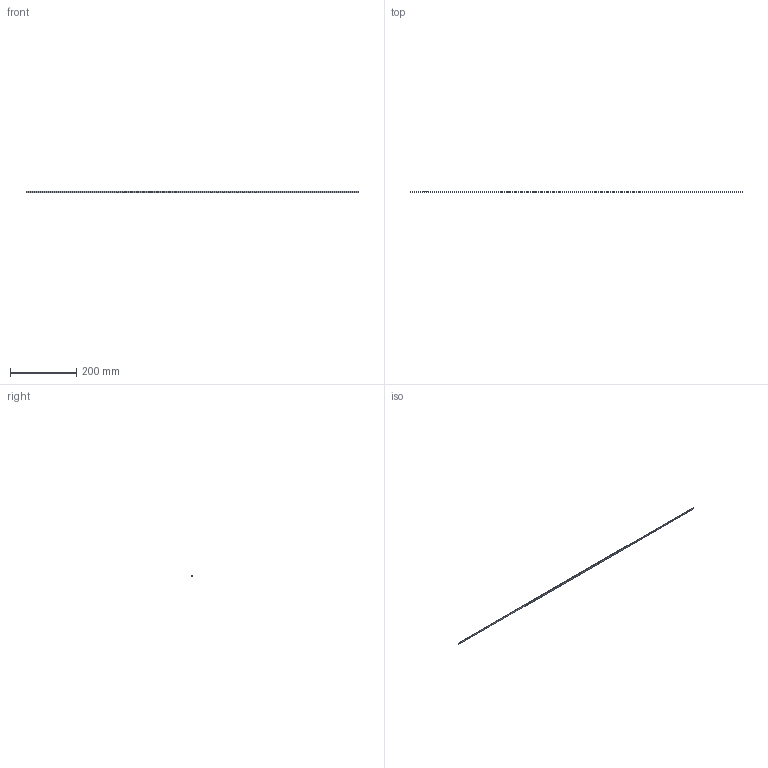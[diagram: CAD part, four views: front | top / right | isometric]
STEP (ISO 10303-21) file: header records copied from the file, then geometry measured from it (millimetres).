
FILE_DESCRIPTION (( 'STEP AP214' ), '1' );
FILE_NAME ('MS05.STEP', '2021-10-22T12:46:11', ( '' ), ( '' ), 'SwSTEP 2.0', 'SolidWorks 2020', '' );
FILE_SCHEMA (( 'AUTOMOTIVE_DESIGN' ));
Length unit declared in the file: millimetre
Products named in the file (4): VHB^MS05; Magnetic scale^MS05; MS05; Carrier
Assembly tree (3 placements, depth 2):
  MS05
    Carrier
    Magnetic scale^MS05
    VHB^MS05
Bounding box: 1000 x 1.43 x 5 mm (x, y, z)
Volume: 7115.1 mm3; surface area: 32303.3 mm2
Topology: 3 solids, 3 shells, 71 faces, 177 edges, 118 vertices
Faces by surface type: plane 53, cylinder 13, bspline 5
Entity records: 2389 total; most frequent: CARTESIAN_POINT 545, ORIENTED_EDGE 354, DIRECTION 337, EDGE_CURVE 177, LINE 141, VECTOR 141, VERTEX_POINT 118, AXIS2_PLACEMENT_3D 98
